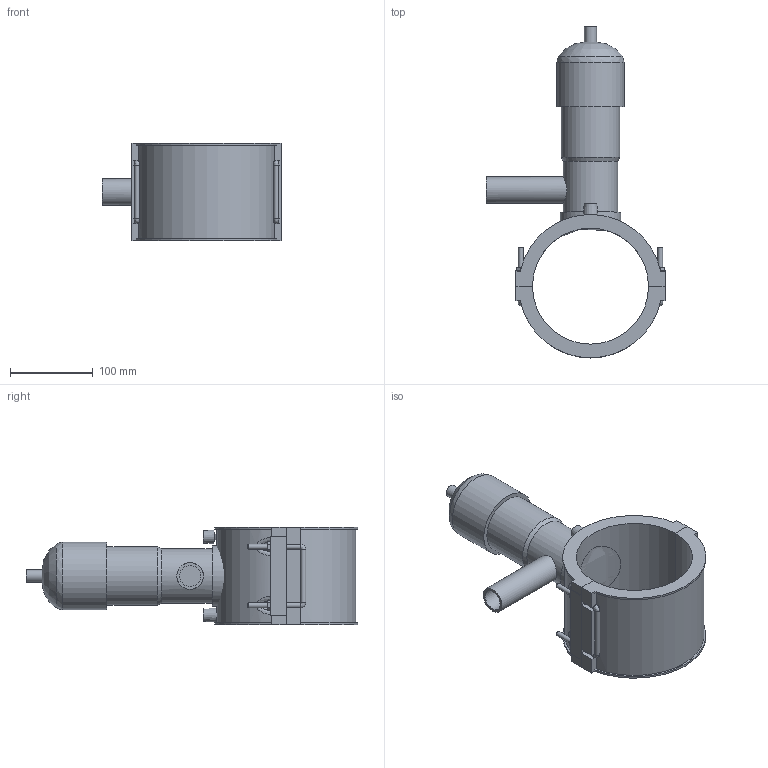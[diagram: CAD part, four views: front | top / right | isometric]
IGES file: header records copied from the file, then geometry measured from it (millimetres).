
Global section: file name: 495404140032.ipt; native system: Autodesk Inventor 2015; preprocessor: unknown; author: KIM; date: 20171106.094254; units: millimetre
Bounding box: 217 x 400.52 x 118 mm (x, y, z)
Volume: 1809647.9 mm3; surface area: 236410.4 mm2
Topology: 3 solids, 5 shells, 157 faces, 388 edges, 246 vertices
Faces by surface type: plane 93, cylinder 29, revolution 16, bspline 12, cone 7
Full cylindrical faces by diameter (mm): 4 x2, 6 x8, 14.64 x1, 32 x1, 65.88 x1, 70.76 x1, 73.2 x1, 81.333 x1
